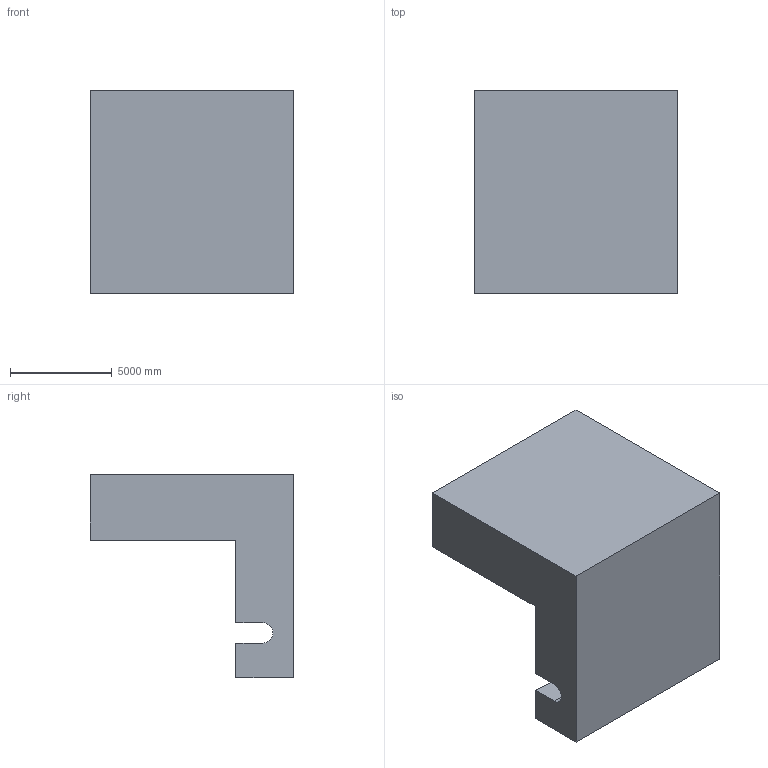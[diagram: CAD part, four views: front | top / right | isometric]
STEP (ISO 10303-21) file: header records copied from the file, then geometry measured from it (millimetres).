
FILE_DESCRIPTION (( 'STEP AP203' ), '1' );
FILE_NAME ('79.STEP', '2022-07-28T13:33:56', ( 'user' ), ( '' ), 'SwSTEP 2.0', 'SolidWorks 2021', '' );
FILE_SCHEMA (( 'CONFIG_CONTROL_DESIGN' ));
Length unit declared in the file: centimetre
Products named in the file (1): 79
Bounding box: 10000 x 10000 x 10000 mm (x, y, z)
Volume: 477124513285 mm3; surface area: 520102269.2 mm2
Topology: 1 solids, 1 shells, 12 faces, 30 edges, 20 vertices
Faces by surface type: plane 11, cylinder 1
Entity records: 433 total; most frequent: CARTESIAN_POINT 63, ORIENTED_EDGE 60, DIRECTION 58, EDGE_CURVE 30, VECTOR 28, LINE 28, VERTEX_POINT 20, AXIS2_PLACEMENT_3D 15
